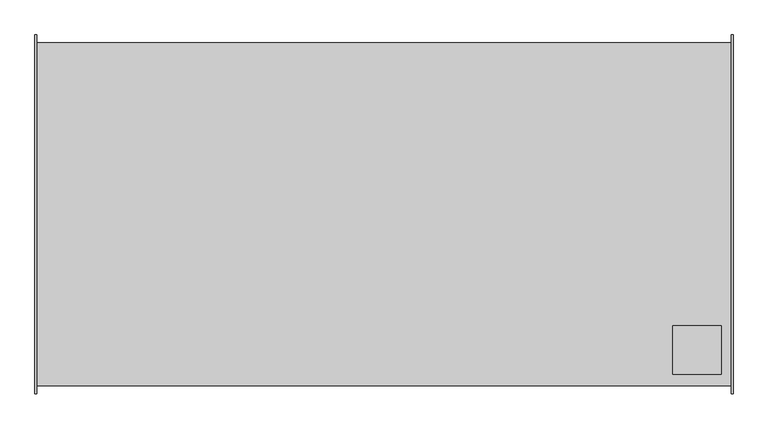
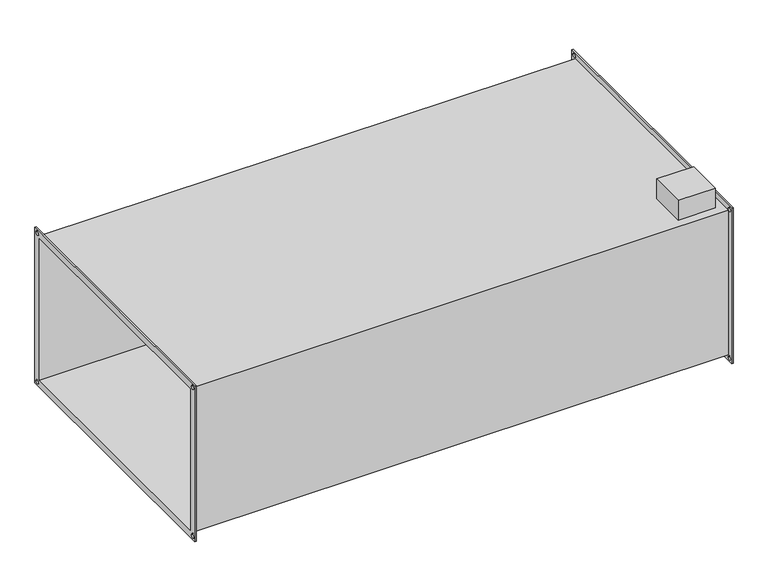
"""IFC4 building model written with IfcOpenShell, lengths in millimetres: proxy geometry."""

from ifc_helpers import new_model, si_unit, frame, origin, place, context, project, spatial, polyline, circle_curve, source, transform, mapped, element, save
from ifc_brep_helpers import plane_surface, revolved_surface, advanced_brep


def mechanical_equipment_aab2c1d2(model_context):
    return source(origin(), model_context, "Body", "AdvancedBrep", [
        advanced_brep(
        [(716.0, -354.0, 204.0), (-716.0, -354.0, 204.0), (-716.0, -354.0, -204.0), (716.0, -354.0, -204.0), (-716.0, 354.0, -204.0), (716.0, 354.0, -204.0), (-716.0, 354.0, 204.0), (716.0, 354.0, 204.0), (596.0, -230.0, 204.0), (696.0, -230.0, 204.0), (696.0, -330.0, 204.0), (596.0, -330.0, 204.0), (696.0, -230.0, 260.0), (596.0, -230.0, 260.0), (596.0, -330.0, 260.0), (696.0, -330.0, 260.0), (-720.0, -370.0, 220.0), (-720.0, 370.0, 220.0), (-720.0, 370.0, -220.0), (-720.0, -370.0, -220.0), (-720.0, -350.0, 200.0), (-720.0, -350.0, -200.0), (-720.0, 350.0, -200.0), (-720.0, 350.0, 200.0), (-720.0, -365.0, 210.0), (-720.0, -355.0, 210.0), (-720.0, -365.0, -210.0), (-720.0, -355.0, -210.0), (-720.0, 355.0, -210.0), (-720.0, 365.0, -210.0), (-720.0, 355.0, 210.0), (-720.0, 365.0, 210.0), (-716.0, -370.0, 220.0), (-716.0, -370.0, -220.0), (-716.0, 370.0, -220.0), (-716.0, 370.0, 220.0), (-716.0, -355.0, 210.0), (-716.0, -365.0, 210.0), (-716.0, -355.0, -210.0), (-716.0, -365.0, -210.0), (-716.0, 365.0, -210.0), (-716.0, 355.0, -210.0), (-716.0, 365.0, 210.0), (-716.0, 355.0, 210.0), (716.0, 370.0, 220.0), (716.0, 370.0, -220.0), (716.0, -370.0, -220.0), (716.0, -370.0, 220.0), (716.0, -365.0, 210.0), (716.0, -355.0, 210.0), (716.0, -365.0, -210.0), (716.0, -355.0, -210.0), (716.0, 355.0, -210.0), (716.0, 365.0, -210.0), (716.0, 355.0, 210.0), (716.0, 365.0, 210.0), (720.0, 370.0, 220.0), (720.0, -370.0, 220.0), (720.0, -370.0, -220.0), (720.0, 370.0, -220.0), (720.0, 350.0, 200.0), (720.0, 350.0, -200.0), (720.0, -350.0, -200.0), (720.0, -350.0, 200.0), (720.0, -355.0, 210.0), (720.0, -365.0, 210.0), (720.0, -355.0, -210.0), (720.0, -365.0, -210.0), (720.0, 365.0, -210.0), (720.0, 355.0, -210.0), (720.0, 365.0, 210.0), (720.0, 355.0, 210.0)],
        [
            (0, 1),
            (1, 2),
            (2, 3),
            (3, 0),
            (2, 4),
            (4, 5),
            (5, 3),
            (4, 6),
            (6, 7),
            (7, 5),
            (0, 7),
            (6, 1),
            (8, 9),
            (9, 10),
            (10, 11),
            (11, 8),
            (12, 13),
            (13, 14),
            (14, 15),
            (15, 12),
            (12, 9),
            (8, 13),
            (11, 14),
            (10, 15),
            (16, 17),
            (17, 18),
            (18, 19),
            (19, 16),
            (20, 21),
            (21, 22),
            (22, 23),
            (23, 20),
            (24, 25, circle_curve(frame((-720.0, -360.0, 210.0), z_axis=(1.0, 0.0, 0.0), x_axis=(0.0, 1.0, 0.0)), 5.0)),
            (25, 24, circle_curve(frame((-720.0, -360.0, 210.0), z_axis=(1.0, 0.0, 0.0), x_axis=(0.0, 1.0, 0.0)), 5.0)),
            (26, 27, circle_curve(frame((-720.0, -360.0, -210.0), z_axis=(1.0, 0.0, 0.0), x_axis=(0.0, 1.0, 0.0)), 5.0)),
            (27, 26, circle_curve(frame((-720.0, -360.0, -210.0), z_axis=(1.0, 0.0, 0.0), x_axis=(0.0, 1.0, 0.0)), 5.0)),
            (28, 29, circle_curve(frame((-720.0, 360.0, -210.0), z_axis=(1.0, 0.0, 0.0), x_axis=(0.0, 1.0, 0.0)), 5.0)),
            (29, 28, circle_curve(frame((-720.0, 360.0, -210.0), z_axis=(1.0, 0.0, 0.0), x_axis=(0.0, 1.0, 0.0)), 5.0)),
            (30, 31, circle_curve(frame((-720.0, 360.0, 210.0), z_axis=(1.0, 0.0, 0.0), x_axis=(0.0, 1.0, 0.0)), 5.0)),
            (31, 30, circle_curve(frame((-720.0, 360.0, 210.0), z_axis=(1.0, 0.0, 0.0), x_axis=(0.0, 1.0, 0.0)), 5.0)),
            (32, 33),
            (33, 34),
            (34, 35),
            (35, 32),
            (36, 37, circle_curve(frame((-716.0, -360.0, 210.0), z_axis=(-1.0, 0.0, 0.0), x_axis=(0.0, 1.0, 0.0)), 5.0)),
            (37, 36, circle_curve(frame((-716.0, -360.0, 210.0), z_axis=(-1.0, 0.0, 0.0), x_axis=(0.0, 1.0, 0.0)), 5.0)),
            (38, 39, circle_curve(frame((-716.0, -360.0, -210.0), z_axis=(-1.0, 0.0, 0.0), x_axis=(0.0, 1.0, 0.0)), 5.0)),
            (39, 38, circle_curve(frame((-716.0, -360.0, -210.0), z_axis=(-1.0, 0.0, 0.0), x_axis=(0.0, 1.0, 0.0)), 5.0)),
            (40, 41, circle_curve(frame((-716.0, 360.0, -210.0), z_axis=(-1.0, 0.0, 0.0), x_axis=(0.0, 1.0, 0.0)), 5.0)),
            (41, 40, circle_curve(frame((-716.0, 360.0, -210.0), z_axis=(-1.0, 0.0, 0.0), x_axis=(0.0, 1.0, 0.0)), 5.0)),
            (42, 43, circle_curve(frame((-716.0, 360.0, 210.0), z_axis=(-1.0, 0.0, 0.0), x_axis=(0.0, 1.0, 0.0)), 5.0)),
            (43, 42, circle_curve(frame((-716.0, 360.0, 210.0), z_axis=(-1.0, 0.0, 0.0), x_axis=(0.0, 1.0, 0.0)), 5.0)),
            (19, 33),
            (32, 16),
            (18, 34),
            (17, 35),
            (44, 45),
            (45, 46),
            (46, 47),
            (47, 44),
            (48, 49, circle_curve(frame((716.0, -360.0, 210.0), z_axis=(1.0, 0.0, 0.0), x_axis=(0.0, 1.0, 0.0)), 5.0)),
            (49, 48, circle_curve(frame((716.0, -360.0, 210.0), z_axis=(1.0, 0.0, 0.0), x_axis=(0.0, 1.0, 0.0)), 5.0)),
            (50, 51, circle_curve(frame((716.0, -360.0, -210.0), z_axis=(1.0, 0.0, 0.0), x_axis=(0.0, 1.0, 0.0)), 5.0)),
            (51, 50, circle_curve(frame((716.0, -360.0, -210.0), z_axis=(1.0, 0.0, 0.0), x_axis=(0.0, 1.0, 0.0)), 5.0)),
            (52, 53, circle_curve(frame((716.0, 360.0, -210.0), z_axis=(1.0, 0.0, 0.0), x_axis=(0.0, 1.0, 0.0)), 5.0)),
            (53, 52, circle_curve(frame((716.0, 360.0, -210.0), z_axis=(1.0, 0.0, 0.0), x_axis=(0.0, 1.0, 0.0)), 5.0)),
            (54, 55, circle_curve(frame((716.0, 360.0, 210.0), z_axis=(1.0, 0.0, 0.0), x_axis=(0.0, 1.0, 0.0)), 5.0)),
            (55, 54, circle_curve(frame((716.0, 360.0, 210.0), z_axis=(1.0, 0.0, 0.0), x_axis=(0.0, 1.0, 0.0)), 5.0)),
            (56, 57),
            (57, 58),
            (58, 59),
            (59, 56),
            (60, 61),
            (61, 62),
            (62, 63),
            (63, 60),
            (64, 65, circle_curve(frame((720.0, -360.0, 210.0), z_axis=(-1.0, 0.0, 0.0), x_axis=(0.0, 1.0, 0.0)), 5.0)),
            (65, 64, circle_curve(frame((720.0, -360.0, 210.0), z_axis=(-1.0, 0.0, 0.0), x_axis=(0.0, 1.0, 0.0)), 5.0)),
            (66, 67, circle_curve(frame((720.0, -360.0, -210.0), z_axis=(-1.0, 0.0, 0.0), x_axis=(0.0, 1.0, 0.0)), 5.0)),
            (67, 66, circle_curve(frame((720.0, -360.0, -210.0), z_axis=(-1.0, 0.0, 0.0), x_axis=(0.0, 1.0, 0.0)), 5.0)),
            (68, 69, circle_curve(frame((720.0, 360.0, -210.0), z_axis=(-1.0, 0.0, 0.0), x_axis=(0.0, 1.0, 0.0)), 5.0)),
            (69, 68, circle_curve(frame((720.0, 360.0, -210.0), z_axis=(-1.0, 0.0, 0.0), x_axis=(0.0, 1.0, 0.0)), 5.0)),
            (70, 71, circle_curve(frame((720.0, 360.0, 210.0), z_axis=(-1.0, 0.0, 0.0), x_axis=(0.0, 1.0, 0.0)), 5.0)),
            (71, 70, circle_curve(frame((720.0, 360.0, 210.0), z_axis=(-1.0, 0.0, 0.0), x_axis=(0.0, 1.0, 0.0)), 5.0)),
            (47, 57),
            (56, 44),
            (46, 58),
            (45, 59),
            (23, 60),
            (63, 20),
            (22, 61),
            (21, 62),
            (24, 37),
            (36, 25),
            (48, 65),
            (64, 49),
            (26, 39),
            (38, 27),
            (50, 67),
            (66, 51),
            (28, 41),
            (40, 29),
            (52, 69),
            (68, 53),
            (30, 43),
            (42, 31),
            (54, 71),
            (70, 55),
        ],
        [
            plane_surface(frame((716.0, -354.0, 204.0), z_axis=(0.0, -1.0, 0.0), x_axis=(-1.0, 0.0, 0.0))),
            plane_surface(frame((716.0, -354.0, -204.0), z_axis=(0.0, 0.0, -1.0), x_axis=(-1.0, 0.0, 0.0))),
            plane_surface(frame((716.0, 354.0, -204.0), z_axis=(0.0, 1.0, 0.0), x_axis=(-1.0, 0.0, 0.0))),
            plane_surface(frame((716.0, 354.0, 204.0), z_axis=(0.0, 0.0, 1.0), x_axis=(-1.0, 0.0, 0.0))),
            plane_surface(frame((596.0, -230.0, 260.0), z_axis=(0.0, 0.0, 1.0), x_axis=(-1.0, 0.0, 0.0))),
            plane_surface(frame((696.0, -230.0, 260.0), z_axis=(0.0, 1.0, 0.0), x_axis=(0.0, 0.0, -1.0))),
            plane_surface(frame((596.0, -230.0, 260.0), z_axis=(-1.0, 0.0, 0.0), x_axis=(0.0, 0.0, -1.0))),
            plane_surface(frame((596.0, -330.0, 260.0), z_axis=(0.0, -1.0, 0.0), x_axis=(0.0, 0.0, -1.0))),
            plane_surface(frame((696.0, -330.0, 260.0), z_axis=(1.0, 0.0, 0.0), x_axis=(0.0, 0.0, -1.0))),
            plane_surface(frame((-720.0, -370.0, 220.0), z_axis=(-1.0, 0.0, 0.0), x_axis=(0.0, 0.0, 1.0))),
            plane_surface(frame((-716.0, -370.0, 220.0), z_axis=(1.0, 0.0, 0.0), x_axis=(0.0, 0.0, -1.0))),
            plane_surface(frame((-716.0, -370.0, 220.0), z_axis=(0.0, -1.0, 0.0), x_axis=(-1.0, 0.0, 0.0))),
            plane_surface(frame((-716.0, -370.0, -220.0), z_axis=(0.0, 0.0, -1.0), x_axis=(-1.0, 0.0, 0.0))),
            plane_surface(frame((-716.0, 370.0, -220.0), z_axis=(0.0, 1.0, 0.0), x_axis=(-1.0, 0.0, 0.0))),
            plane_surface(frame((-716.0, 370.0, 220.0), z_axis=(0.0, 0.0, 1.0), x_axis=(-1.0, 0.0, 0.0))),
            plane_surface(frame((716.0, 350.0, -200.0), z_axis=(-1.0, 0.0, 0.0), x_axis=(0.0, 0.0, 1.0))),
            plane_surface(frame((720.0, 350.0, -200.0), z_axis=(1.0, 0.0, 0.0), x_axis=(0.0, 0.0, -1.0))),
            plane_surface(frame((720.0, 370.0, 220.0), z_axis=(0.0, 0.0, 1.0), x_axis=(-1.0, 0.0, 0.0))),
            plane_surface(frame((720.0, -370.0, 220.0), z_axis=(0.0, -1.0, 0.0), x_axis=(-1.0, 0.0, 0.0))),
            plane_surface(frame((720.0, -370.0, -220.0), z_axis=(0.0, 0.0, -1.0), x_axis=(-1.0, 0.0, 0.0))),
            plane_surface(frame((720.0, 370.0, -220.0), z_axis=(0.0, 1.0, 0.0), x_axis=(-1.0, 0.0, 0.0))),
            plane_surface(frame((-716.0, -350.0, 200.0), z_axis=(0.0, 0.0, -1.0), x_axis=(-1.0, 0.0, 0.0))),
            plane_surface(frame((-716.0, 350.0, 200.0), z_axis=(0.0, -1.0, 0.0), x_axis=(-1.0, 0.0, 0.0))),
            plane_surface(frame((-716.0, 350.0, -200.0), z_axis=(0.0, 0.0, 1.0), x_axis=(-1.0, 0.0, 0.0))),
            plane_surface(frame((-716.0, -350.0, -200.0), z_axis=(0.0, 1.0, 0.0), x_axis=(-1.0, 0.0, 0.0))),
            revolved_surface(polyline([(-716.0, -355.0, 210.0), (-720.0, -355.0, 210.0)]), (-720.0, -360.0, 210.0), (1.0, 0.0, 0.0)),
            revolved_surface(polyline([(720.0, -355.0, 210.0), (716.0, -355.0, 210.0)]), (-720.0, -360.0, 210.0), (1.0, 0.0, 0.0)),
            revolved_surface(polyline([(-716.0, -355.0, -210.0), (-720.0, -355.0, -210.0)]), (0.0, -360.0, -210.0), (1.0, 0.0, 0.0)),
            revolved_surface(polyline([(720.0, -355.0, -210.0), (716.0, -355.0, -210.0)]), (0.0, -360.0, -210.0), (1.0, 0.0, 0.0)),
            revolved_surface(polyline([(-716.0, 365.0, -210.0), (-720.0, 365.0, -210.0)]), (0.0, 360.0, -210.0), (1.0, 0.0, 0.0)),
            revolved_surface(polyline([(720.0, 365.0, -210.0), (716.0, 365.0, -210.0)]), (0.0, 360.0, -210.0), (1.0, 0.0, 0.0)),
            revolved_surface(polyline([(-716.0, 365.0, 210.0), (-720.0, 365.0, 210.0)]), (0.0, 360.0, 210.0), (1.0, 0.0, 0.0)),
            revolved_surface(polyline([(720.0, 365.0, 210.0), (716.0, 365.0, 210.0)]), (0.0, 360.0, 210.0), (1.0, 0.0, 0.0)),
        ],
        [
            (0, [[1, 2, 3, 4]]),
            (1, [[-3, 5, 6, 7]]),
            (2, [[-6, 8, 9, 10]]),
            (3, [[-1, 11, -9, 12], [13, 14, 15, 16]]),
            (4, [[17, 18, 19, 20]]),
            (5, [[-17, 21, -13, 22]]),
            (6, [[-18, -22, -16, 23]]),
            (7, [[-19, -23, -15, 24]]),
            (8, [[-20, -24, -14, -21]]),
            (9, [[25, 26, 27, 28], [29, 30, 31, 32], [33, 34], [35, 36], [37, 38], [39, 40]]),
            (10, [[41, 42, 43, 44], [-2, -12, -8, -5], [45, 46], [47, 48], [49, 50], [51, 52]]),
            (11, [[-28, 53, -41, 54]]),
            (12, [[-27, 55, -42, -53]]),
            (13, [[-26, 56, -43, -55]]),
            (14, [[-25, -54, -44, -56]]),
            (15, [[57, 58, 59, 60], [-4, -7, -10, -11], [61, 62], [63, 64], [65, 66], [67, 68]]),
            (16, [[69, 70, 71, 72], [73, 74, 75, 76], [77, 78], [79, 80], [81, 82], [83, 84]]),
            (17, [[-60, 85, -69, 86]]),
            (18, [[-59, 87, -70, -85]]),
            (19, [[-58, 88, -71, -87]]),
            (20, [[-57, -86, -72, -88]]),
            (21, [[-32, 89, -76, 90]]),
            (22, [[-31, 91, -73, -89]]),
            (23, [[-30, 92, -74, -91]]),
            (24, [[-29, -90, -75, -92]]),
            (25, [[93, -45, 94, -33]]),
            (26, [[95, -77, 96, -61]]),
            (25, [[-93, -34, -94, -46]]),
            (26, [[-95, -62, -96, -78]]),
            (27, [[97, -47, 98, -35]]),
            (28, [[99, -79, 100, -63]]),
            (27, [[-97, -36, -98, -48]]),
            (28, [[-99, -64, -100, -80]]),
            (29, [[101, -49, 102, -37]]),
            (30, [[103, -81, 104, -65]]),
            (29, [[-101, -38, -102, -50]]),
            (30, [[-103, -66, -104, -82]]),
            (31, [[105, -51, 106, -39]]),
            (32, [[107, -83, 108, -67]]),
            (31, [[-105, -40, -106, -52]]),
            (32, [[-107, -68, -108, -84]]),
        ],
    ),
    ])


if __name__ == "__main__":
    model = new_model("IFC4")
    model_context = context("Model", 3, world=origin())
    ifc_project = project(units=[si_unit("LENGTHUNIT", "METRE", prefix="MILLI")], contexts=[model_context])
    site = spatial("IfcSite", under=ifc_project)
    building = spatial("IfcBuilding", under=site)
    placement = place(None, origin())
    mechanical_equipment_shape = mechanical_equipment_aab2c1d2(model_context)
    element("IfcBuildingElementProxy", 1, Name="Mechanical Equipment", at=placement, inside=building, context=model_context, shape_type="MappedRepresentation", body=[
        mapped(mechanical_equipment_shape, transform((0.0, 0.0, 0.0), x_axis=(1.0, 0.0, 0.0), y_axis=(0.0, 1.0, 0.0), z_axis=(0.0, 0.0, 1.0))),
    ])
    save(model, "model.ifc")
